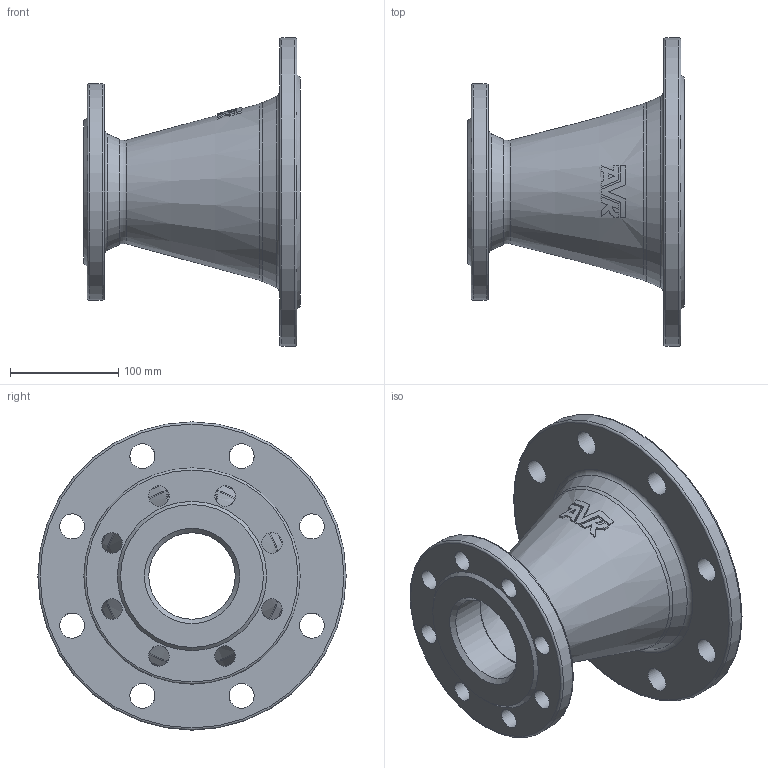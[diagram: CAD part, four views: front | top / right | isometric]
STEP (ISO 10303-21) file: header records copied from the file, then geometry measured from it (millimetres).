
FILE_DESCRIPTION (( 'STEP AP203' ), '1' );
FILE_NAME ('O_712_2210_DN150_DN80_1X_REV01.step', '2024-08-07T11:36:54', ( '' ), ( '' ), 'SwSTEP 2.0', 'SolidWorks 2022', '' );
FILE_SCHEMA (( 'CONFIG_CONTROL_DESIGN' ));
Length unit declared in the file: millimetre
Products named in the file (1): O_712_2210_DN150_DN80_1X_REV01
Bounding box: 200 x 285 x 285 mm (x, y, z)
Volume: 1640771.1 mm3; surface area: 303667.8 mm2
Topology: 1 solids, 1 shells, 85 faces, 237 edges, 154 vertices
Faces by surface type: plane 41, cylinder 22, cone 12, torus 10
Full cylindrical faces by diameter (mm): 19 x8, 23 x8, 80 x1, 150 x1, 200 x1, 285 x1
Entity records: 2588 total; most frequent: CARTESIAN_POINT 579, DIRECTION 407, ORIENTED_EDGE 356, AXIS2_PLACEMENT_3D 185, EDGE_CURVE 178, EDGE_LOOP 157, VERTEX_POINT 133, FACE_OUTER_BOUND 115
